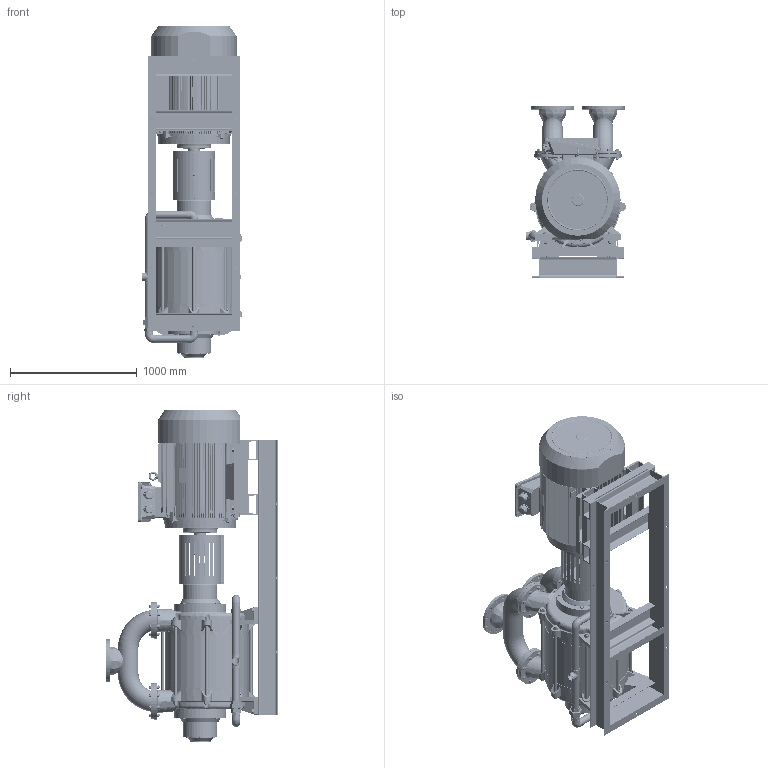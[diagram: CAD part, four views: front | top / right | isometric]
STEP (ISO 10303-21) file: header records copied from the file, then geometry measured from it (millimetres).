
FILE_DESCRIPTION (( 'STEP AP214' ), '1' );
FILE_NAME ('GMPT 520 400 MONTAJ IE3 MOTORLU.STEP', '2024-05-15T12:04:42', ( '' ), ( '' ), 'SwSTEP 2.0', 'SolidWorks 2024', '' );
FILE_SCHEMA (( 'AUTOMOTIVE_DESIGN' ));
Length unit declared in the file: millimetre
Products named in the file (1): GMPT 520 400 MONTAJ IE3 MOTORLU
Bounding box: 792.54 x 1355.79 x 2624.5 mm (x, y, z)
Volume: 673800777.2 mm3; surface area: 22366800.1 mm2
Topology: 136 solids, 157 shells, 8967 faces, 21937 edges, 13494 vertices
Faces by surface type: plane 3869, cylinder 2116, cone 1742, bspline 808, torus 379, sphere 53
Entity records: 373801 total; most frequent: CARTESIAN_POINT 170585, ORIENTED_EDGE 43706, DIRECTION 39569, EDGE_CURVE 21853, AXIS2_PLACEMENT_3D 15200, VERTEX_POINT 13492, EDGE_LOOP 9721, VECTOR 9169
